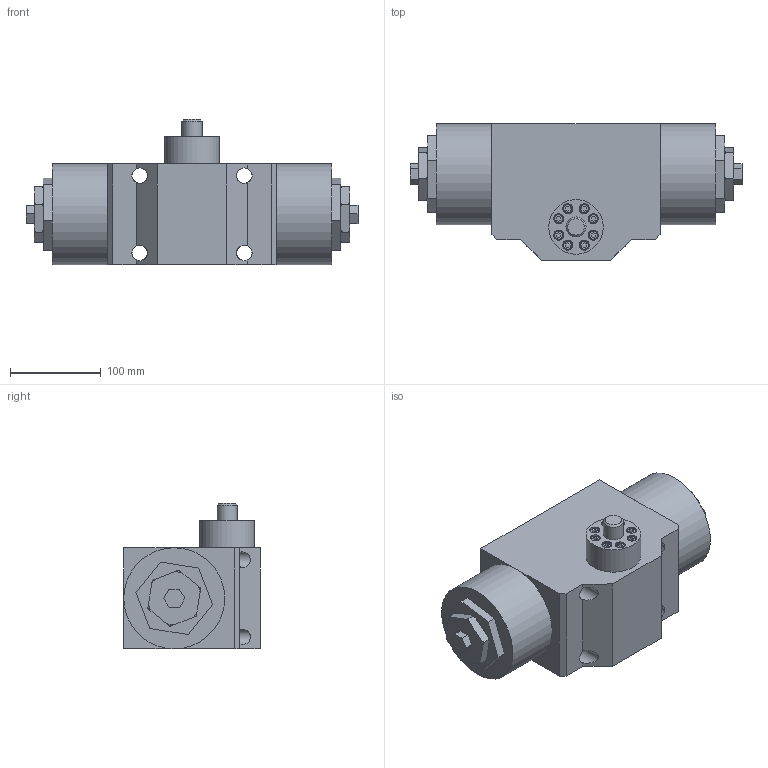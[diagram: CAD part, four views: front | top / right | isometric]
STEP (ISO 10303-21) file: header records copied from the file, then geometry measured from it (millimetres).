
FILE_DESCRIPTION(/* description */ (''),/* implementation_level */ '2;1');
FILE_NAME(/* name */ '9.prt.stp',/* time_stamp */ '2023-05-03T13:42:10+08:00',/* author */ (''),/* organization */ (''),/* preprocessor_version */ 'ST-DEVELOPER v16.7',/* originating_system */ 'SIEMENS PLM Software NX 12.0',/* authorisation */ '');
FILE_SCHEMA (('AUTOMOTIVE_DESIGN { 1 0 10303 214 3 1 1 1 }'));
Length unit declared in the file: millimetre
Products named in the file (1): 9
Bounding box: 365 x 150 x 160 mm (x, y, z)
Volume: 4131851.7 mm3; surface area: 310635.5 mm2
Topology: 19 solids, 19 shells, 314 faces, 774 edges, 513 vertices
Faces by surface type: plane 191, cylinder 71, torus 32, cone 20
Full cylindrical faces by diameter (mm): 5 x8, 6 x8, 7 x8, 10 x8, 11 x8, 17 x4, 18 x2, 20 x1, 22 x2, 25 x2, 28 x1, 60 x1, 111 x2
Entity records: 8846 total; most frequent: CARTESIAN_POINT 1758, DIRECTION 1418, ORIENTED_EDGE 1266, EDGE_CURVE 633, AXIS2_PLACEMENT_3D 518, VERTEX_POINT 474, EDGE_LOOP 462, LINE 382
